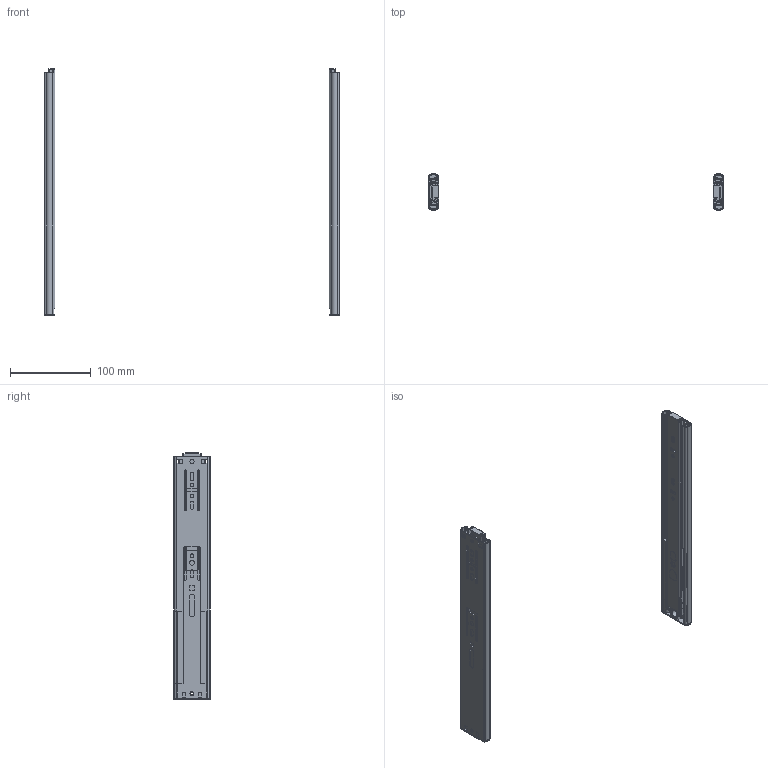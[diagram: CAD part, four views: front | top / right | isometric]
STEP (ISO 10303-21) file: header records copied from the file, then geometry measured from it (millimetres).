
FILE_DESCRIPTION(/* description */ (''),/* implementation_level */ '2;1');
FILE_NAME(/* name */ 'D:\$Workingspace\Designs\Katalog\Cadsoft\GTV Prowadnice\PK-L-P2O-H45-_\PK-L-P2O-H45-300.stp',/* time_stamp */ '2020-04-28T07:19:58+02:00',/* author */ ('tomaszw'),/* organization */ (''),/* preprocessor_version */ 'ST-DEVELOPER v18',/* originating_system */ 'Autodesk Inventor 2020',/* authorisation */ '');
FILE_SCHEMA (('AUTOMOTIVE_DESIGN { 1 0 10303 214 3 1 1 }'));
Length unit declared in the file: millimetre
Products named in the file (6): PK-L-P2O-H45-300; PK-L-P2O-H45_1-300; PK-L-P2O-H45_2-300; PK-L-P2O-H45_3-300; PK-L-P2O-H45_4-_; PK-L-P2O-H45_5-_
Assembly tree (10 placements, depth 2):
  PK-L-P2O-H45-300
    PK-L-P2O-H45_1-300  x2
    PK-L-P2O-H45_2-300  x2
    PK-L-P2O-H45_3-300  x2
    PK-L-P2O-H45_4-_  x2
    PK-L-P2O-H45_5-_  x2
Bounding box: 364 x 45.9 x 305 mm (x, y, z)
Volume: 165527.9 mm3; surface area: 203882.8 mm2
Topology: 16 solids, 16 shells, 786 faces, 2254 edges, 1500 vertices
Faces by surface type: plane 478, cylinder 304, cone 2, torus 2
Full cylindrical faces by diameter (mm): 1.9 x2, 3 x2, 4 x2, 4.5 x12, 5 x2, 6.2 x2, 8 x2
Entity records: 13713 total; most frequent: CARTESIAN_POINT 2435, DIRECTION 2255, ORIENTED_EDGE 2254, EDGE_CURVE 1127, LINE 803, VECTOR 803, VERTEX_POINT 750, AXIS2_PLACEMENT_3D 726
